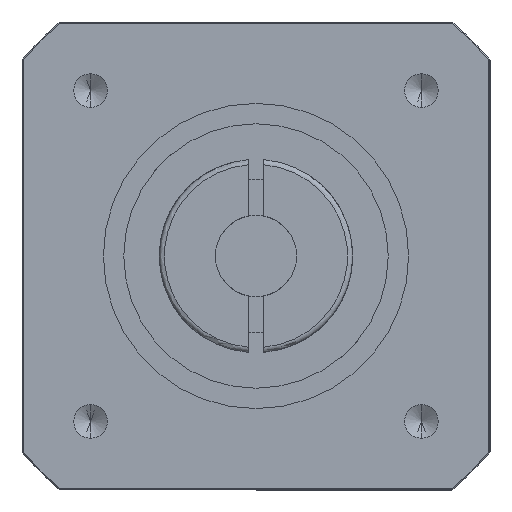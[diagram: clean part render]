
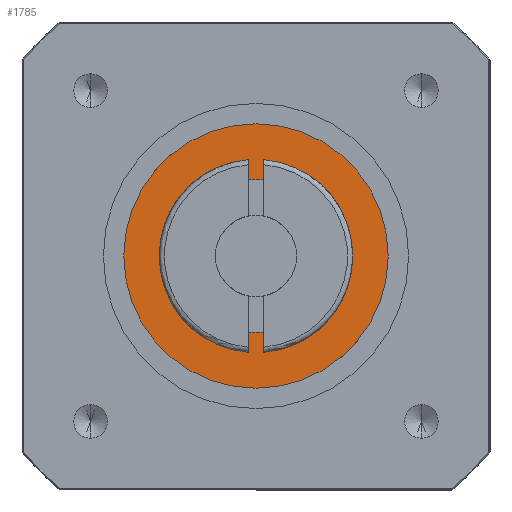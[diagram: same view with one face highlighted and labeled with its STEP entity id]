
A CAD part, front view. The second image highlights one B-rep face of the part: STEP entity #1785.
In plain terms, the highlighted planar face has unit normal (0, -1, 0).
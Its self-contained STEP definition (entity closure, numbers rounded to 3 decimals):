
#257 = DIRECTION ( 'NONE',  ( 0., -1., 0. ) ) ;
#259 = CARTESIAN_POINT ( 'NONE',  ( 0., -64., 0. ) ) ;
#260 = DIRECTION ( 'NONE',  ( 0., 0., -1. ) ) ;
#303 = DIRECTION ( 'NONE',  ( 0., 1., 0. ) ) ;
#304 = DIRECTION ( 'NONE',  ( 0., 0., 1. ) ) ;
#309 = CARTESIAN_POINT ( 'NONE',  ( 0., -64., 0. ) ) ;
#310 = DIRECTION ( 'NONE',  ( 0., -1., 0. ) ) ;
#311 = DIRECTION ( 'NONE',  ( 0., 0., -1. ) ) ;
#314 = CARTESIAN_POINT ( 'NONE',  ( 0., -64., 0. ) ) ;
#330 = DIRECTION ( 'NONE',  ( 0., 0., -1. ) ) ;
#373 = CARTESIAN_POINT ( 'NONE',  ( 0., -64., 0. ) ) ;
#453 = PLANE ( 'NONE',  #4248 ) ;
#559 = DIRECTION ( 'NONE',  ( 0., -1., 0. ) ) ;
#1398 = CARTESIAN_POINT ( 'NONE',  ( 0., -64., -13. ) ) ;
#1407 = CARTESIAN_POINT ( 'NONE',  ( 0., -64., 13. ) ) ;
#1409 = CARTESIAN_POINT ( 'NONE',  ( 0., -64., -7.5 ) ) ;
#1410 = CARTESIAN_POINT ( 'NONE',  ( 0., -64., 7.5 ) ) ;
#1785 = ADVANCED_FACE ( 'NONE', ( #4032, #4036 ), #453, .T. ) ;
#2136 = VERTEX_POINT ( 'NONE', #1410 ) ;
#2137 = VERTEX_POINT ( 'NONE', #1409 ) ;
#2139 = VERTEX_POINT ( 'NONE', #1407 ) ;
#2148 = VERTEX_POINT ( 'NONE', #1398 ) ;
#2438 = ORIENTED_EDGE ( 'NONE', *, *, #4922, .T. ) ;
#2439 = ORIENTED_EDGE ( 'NONE', *, *, #4889, .T. ) ;
#2440 = ORIENTED_EDGE ( 'NONE', *, *, #4874, .T. ) ;
#2441 = ORIENTED_EDGE ( 'NONE', *, *, #4923, .T. ) ;
#2682 = CIRCLE ( 'NONE', #3238, 7.5 ) ;
#2708 = CIRCLE ( 'NONE', #3243, 13. ) ;
#2723 = CIRCLE ( 'NONE', #3255, 13. ) ;
#2750 = CIRCLE ( 'NONE', #3256, 7.5 ) ;
#3238 = AXIS2_PLACEMENT_3D ( 'NONE', #5993, #6003, #5939 ) ;
#3243 = AXIS2_PLACEMENT_3D ( 'NONE', #259, #257, #260 ) ;
#3255 = AXIS2_PLACEMENT_3D ( 'NONE', #309, #310, #311 ) ;
#3256 = AXIS2_PLACEMENT_3D ( 'NONE', #314, #303, #304 ) ;
#3622 = EDGE_LOOP ( 'NONE', ( #2438, #2439 ) ) ;
#3642 = EDGE_LOOP ( 'NONE', ( #2440, #2441 ) ) ;
#4032 = FACE_OUTER_BOUND ( 'NONE', #3622, .T. ) ;
#4036 = FACE_BOUND ( 'NONE', #3642, .T. ) ;
#4248 = AXIS2_PLACEMENT_3D ( 'NONE', #373, #559, #330 ) ;
#4874 = EDGE_CURVE ( 'NONE', #2136, #2137, #2682, .T. ) ;
#4889 = EDGE_CURVE ( 'NONE', #2139, #2148, #2708, .T. ) ;
#4922 = EDGE_CURVE ( 'NONE', #2148, #2139, #2723, .T. ) ;
#4923 = EDGE_CURVE ( 'NONE', #2137, #2136, #2750, .T. ) ;
#5939 = DIRECTION ( 'NONE',  ( 0., 0., 1. ) ) ;
#5993 = CARTESIAN_POINT ( 'NONE',  ( 0., -64., 0. ) ) ;
#6003 = DIRECTION ( 'NONE',  ( 0., 1., 0. ) ) ;
